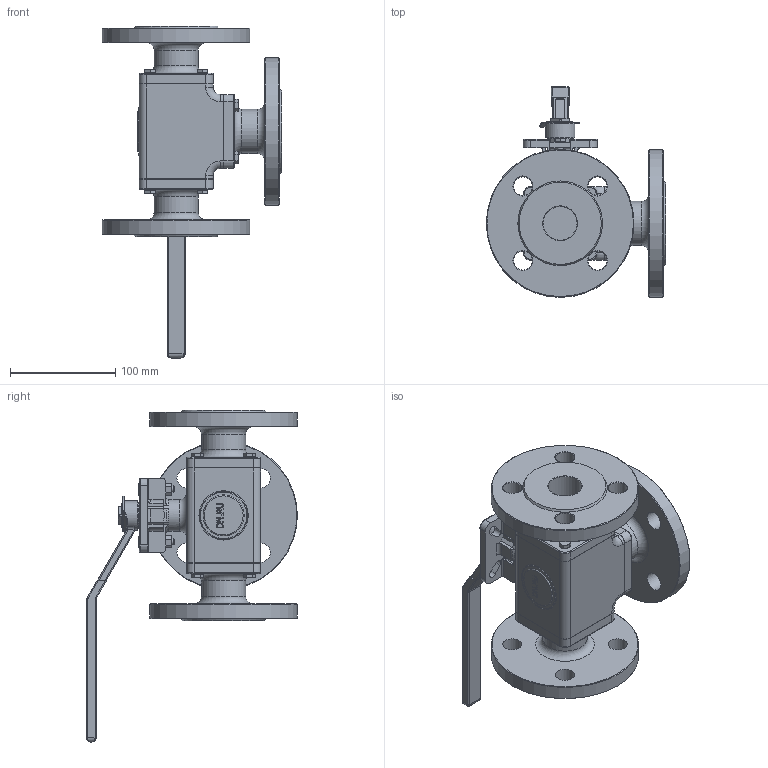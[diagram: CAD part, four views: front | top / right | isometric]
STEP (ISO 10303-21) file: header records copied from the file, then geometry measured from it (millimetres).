
FILE_DESCRIPTION(('STEP AP242'), '1');
FILE_NAME('BV3232P(4pc)-FP-3WT-F-ISO-H Êðàí øàðîâîé DN.ru Äó32 Ðó16', '', ('UNSPECIFIED'), ('UNSPECIFIED'), 'C3D Converter', 'C3D Toolkit', '');
FILE_SCHEMA(('AP242_MANAGED_MODEL_BASED_3D_ENGINEERING_MIM_LF { 1 0 10303 442 1 1 4 }'));
Length unit declared in the file: millimetre
Products named in the file (1): BV3232P(4pc)-FP-3WT-F-ISO-H
Bounding box: 170 x 200 x 315 mm (x, y, z)
Volume: 1390257.4 mm3; surface area: 238913.5 mm2
Topology: 1 solids, 14 shells, 915 faces, 2210 edges, 1372 vertices
Faces by surface type: plane 460, cylinder 215, cone 134, bspline 64, torus 42
Full cylindrical faces by diameter (mm): 1.119 x2, 2 x1, 6 x28, 7 x12, 10 x14, 18 x12, 25 x1, 28 x1, 30 x4, 32 x3, 42 x3, 140 x3
Entity records: 44216 total; most frequent: CARTESIAN_POINT 19323, ORIENTED_EDGE 4166, DIRECTION 4061, EDGE_CURVE 2083, AXIS2_PLACEMENT_3D 1536, VERTEX_POINT 1372, EDGE_LOOP 1183, LINE 989
